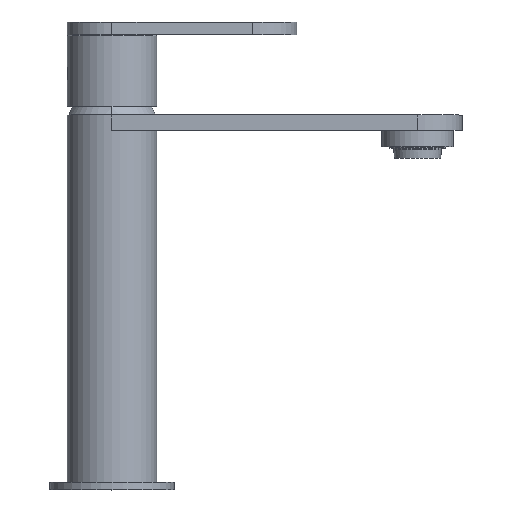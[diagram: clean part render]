
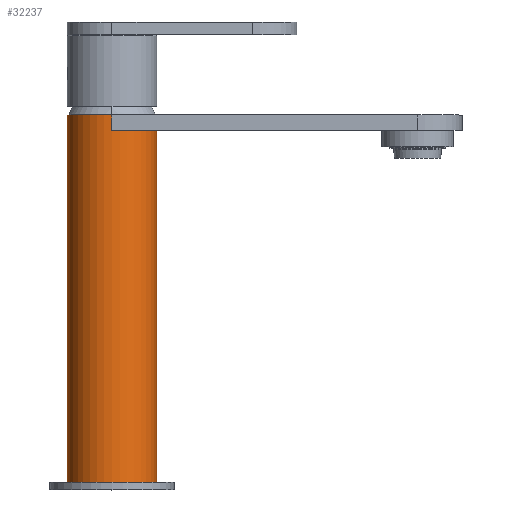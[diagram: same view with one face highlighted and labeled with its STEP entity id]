
A CAD part, top view. The second image highlights one B-rep face of the part: STEP entity #32237.
In plain terms, the highlighted cylindrical face has radius 17.5 mm (diameter 35 mm), a partial arc.
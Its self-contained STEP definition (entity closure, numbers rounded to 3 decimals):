
#3481=CARTESIAN_POINT('',(0.,-88.5,0.));
#3482=DIRECTION('',(0.,1.,0.));
#3483=DIRECTION('',(-1.,0.,0.));
#3484=AXIS2_PLACEMENT_3D('',#3481,#3482,#3483);
#3486=DIRECTION('',(0.,1.,0.));
#3487=VECTOR('',#3486,138.2);
#3488=CARTESIAN_POINT('',(-17.5,-88.5,0.));
#3489=LINE('',#3488,#3487);
#3490=CARTESIAN_POINT('',(0.,49.7,0.));
#3491=DIRECTION('',(0.,1.,0.));
#3492=DIRECTION('',(0.,0.,1.));
#3493=AXIS2_PLACEMENT_3D('',#3490,#3491,#3492);
#3495=DIRECTION('',(0.,-1.,0.));
#3496=VECTOR('',#3495,138.2);
#3497=CARTESIAN_POINT('',(17.5,49.7,0.));
#3498=LINE('',#3497,#3496);
#9536=CARTESIAN_POINT('',(0.,55.7,0.));
#9537=DIRECTION('',(0.,1.,0.));
#9538=DIRECTION('',(0.,0.,-1.));
#9539=AXIS2_PLACEMENT_3D('',#9536,#9537,#9538);
#9564=DIRECTION('',(0.,-1.,0.));
#9565=VECTOR('',#9564,6.);
#9566=CARTESIAN_POINT('',(0.,55.7,-17.5));
#9567=LINE('',#9566,#9565);
#9576=DIRECTION('',(0.,1.,0.));
#9577=VECTOR('',#9576,6.);
#9578=CARTESIAN_POINT('',(0.,49.7,17.5));
#9579=LINE('',#9578,#9577);
#26359=CARTESIAN_POINT('',(0.,49.7,0.));
#26360=DIRECTION('',(0.,1.,0.));
#26361=DIRECTION('',(0.,0.,-1.));
#26362=AXIS2_PLACEMENT_3D('',#26359,#26360,#26361);
#26420=CARTESIAN_POINT('',(0.,55.7,-17.5));
#26421=CARTESIAN_POINT('',(0.,55.7,17.5));
#26422=VERTEX_POINT('',#26420);
#26423=VERTEX_POINT('',#26421);
#26456=CARTESIAN_POINT('',(0.,49.7,-17.5));
#26457=CARTESIAN_POINT('',(-17.5,49.7,0.));
#26458=VERTEX_POINT('',#26456);
#26459=VERTEX_POINT('',#26457);
#26460=CARTESIAN_POINT('',(0.,49.7,17.5));
#26461=CARTESIAN_POINT('',(17.5,49.7,0.));
#26462=VERTEX_POINT('',#26460);
#26463=VERTEX_POINT('',#26461);
#29053=CARTESIAN_POINT('',(-17.5,-88.5,0.));
#29054=CARTESIAN_POINT('',(17.5,-88.5,0.));
#29055=VERTEX_POINT('',#29053);
#29056=VERTEX_POINT('',#29054);
#32215=CARTESIAN_POINT('',(0.,-2.485,0.));
#32216=DIRECTION('',(0.,1.,0.));
#32217=DIRECTION('',(1.,0.,0.));
#32218=AXIS2_PLACEMENT_3D('',#32215,#32216,#32217);
#32219=CYLINDRICAL_SURFACE('',#32218,17.5);
#32221=ORIENTED_EDGE('',*,*,#32220,.F.);
#32223=ORIENTED_EDGE('',*,*,#32222,.T.);
#32225=ORIENTED_EDGE('',*,*,#32224,.F.);
#32227=ORIENTED_EDGE('',*,*,#32226,.F.);
#32229=ORIENTED_EDGE('',*,*,#32228,.T.);
#32231=ORIENTED_EDGE('',*,*,#32230,.F.);
#32232=ORIENTED_EDGE('',*,*,#32197,.T.);
#32234=ORIENTED_EDGE('',*,*,#32233,.T.);
#32235=EDGE_LOOP('',(#32221,#32223,#32225,#32227,#32229,#32231,#32232,#32234));
#32236=FACE_OUTER_BOUND('',#32235,.F.);
#32237=ADVANCED_FACE('',(#32236),#32219,.T.);
#3485=CIRCLE('',#3484,17.5);
#3494=CIRCLE('',#3493,17.5);
#9540=CIRCLE('',#9539,17.5);
#26363=CIRCLE('',#26362,17.5);
#32197=EDGE_CURVE('',#26462,#26463,#3494,.T.);
#32220=EDGE_CURVE('',#29055,#29056,#3485,.T.);
#32222=EDGE_CURVE('',#29055,#26459,#3489,.T.);
#32224=EDGE_CURVE('',#26458,#26459,#26363,.T.);
#32226=EDGE_CURVE('',#26422,#26458,#9567,.T.);
#32228=EDGE_CURVE('',#26422,#26423,#9540,.T.);
#32230=EDGE_CURVE('',#26462,#26423,#9579,.T.);
#32233=EDGE_CURVE('',#26463,#29056,#3498,.T.);
